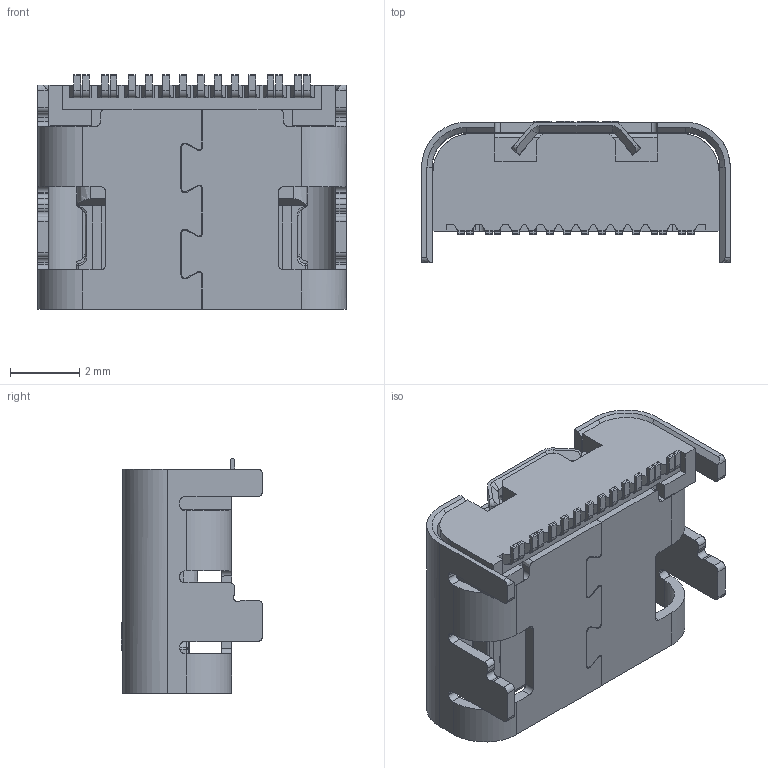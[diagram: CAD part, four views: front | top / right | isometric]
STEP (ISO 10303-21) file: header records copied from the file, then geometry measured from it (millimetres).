
FILE_DESCRIPTION (( 'STEP AP203' ), '1' );
FILE_NAME ('U5229-16PN6.5L.STEP', '2026-09-08T06:38:00', ( '' ), ( '' ), 'SwSTEP 2.0', 'SolidWorks 2024', '' );
FILE_SCHEMA (( 'CONFIG_CONTROL_DESIGN' ));
Length unit declared in the file: millimetre
Products named in the file (1): U5229-16PN6.5L
Bounding box: 8.94 x 4.09 x 6.8 mm (x, y, z)
Volume: 97.8 mm3; surface area: 437.3 mm2
Topology: 5 solids, 5 shells, 818 faces, 2366 edges, 1555 vertices
Faces by surface type: plane 557, bspline 261
Entity records: 31721 total; most frequent: CARTESIAN_POINT 12240, ORIENTED_EDGE 4724, DIRECTION 2976, EDGE_CURVE 2362, VECTOR 1778, LINE 1778, VERTEX_POINT 1555, EDGE_LOOP 835
